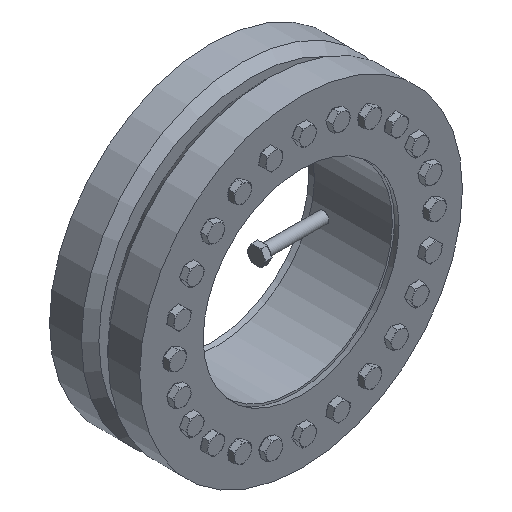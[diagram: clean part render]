
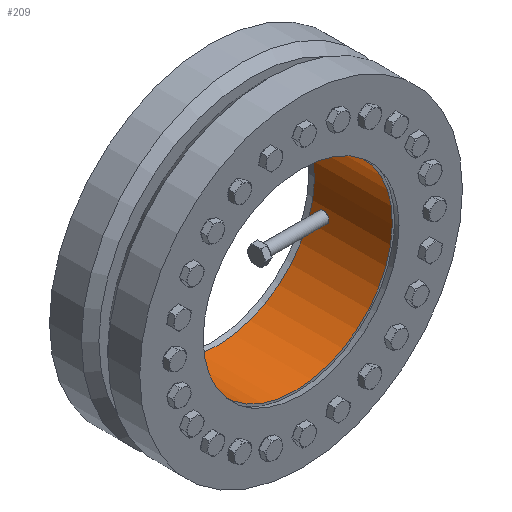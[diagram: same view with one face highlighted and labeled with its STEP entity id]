
A CAD part, isometric view. The second image highlights one B-rep face of the part: STEP entity #209.
In plain terms, the highlighted cylindrical face has radius 175 mm (diameter 350 mm), a partial arc.
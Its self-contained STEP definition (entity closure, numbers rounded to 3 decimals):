
#209 = ADVANCED_FACE( '', ( #581 ), #582, .F. );
#581 = FACE_OUTER_BOUND( '', #1010, .T. );
#582 = CYLINDRICAL_SURFACE( '', #1011, 175. );
#1010 = EDGE_LOOP( '', ( #1623, #1624, #1625, #1626 ) );
#1011 = AXIS2_PLACEMENT_3D( '', #1627, #1628, #1629 );
#1623 = ORIENTED_EDGE( '', *, *, #1984, .T. );
#1624 = ORIENTED_EDGE( '', *, *, #1906, .T. );
#1625 = ORIENTED_EDGE( '', *, *, #1824, .F. );
#1626 = ORIENTED_EDGE( '', *, *, #1914, .F. );
#1627 = CARTESIAN_POINT( '', ( 0., -60., 0. ) );
#1628 = DIRECTION( '', ( 0., 1., 0. ) );
#1629 = DIRECTION( '', ( 0., 0., -1. ) );
#1824 = EDGE_CURVE( '', #2093, #2094, #2095, .T. );
#1906 = EDGE_CURVE( '', #2233, #2094, #2247, .F. );
#1914 = EDGE_CURVE( '', #2258, #2093, #2259, .F. );
#1984 = EDGE_CURVE( '', #2258, #2233, #2367, .T. );
#2093 = VERTEX_POINT( '', #2604 );
#2094 = VERTEX_POINT( '', #2605 );
#2095 = CIRCLE( '', #2606, 175. );
#2233 = VERTEX_POINT( '', #2749 );
#2247 = LINE( '', #2775, #2776 );
#2258 = VERTEX_POINT( '', #2787 );
#2259 = LINE( '', #2788, #2789 );
#2367 = CIRCLE( '', #2914, 175. );
#2604 = CARTESIAN_POINT( '', ( -8.1, 70., 174.812 ) );
#2605 = CARTESIAN_POINT( '', ( 8.1, 70., 174.812 ) );
#2606 = AXIS2_PLACEMENT_3D( '', #3028, #3029, #3030 );
#2749 = CARTESIAN_POINT( '', ( 8.1, -70., 174.812 ) );
#2775 = CARTESIAN_POINT( '', ( 8.1, -60., 174.812 ) );
#2776 = VECTOR( '', #3219, 1000. );
#2787 = CARTESIAN_POINT( '', ( -8.1, -70., 174.812 ) );
#2788 = CARTESIAN_POINT( '', ( -8.1, -60., 174.812 ) );
#2789 = VECTOR( '', #3229, 1000. );
#2914 = AXIS2_PLACEMENT_3D( '', #3340, #3341, #3342 );
#3028 = CARTESIAN_POINT( '', ( 0., 70., 0. ) );
#3029 = DIRECTION( '', ( 0., -1., 0. ) );
#3030 = DIRECTION( '', ( 0., 0., -1. ) );
#3219 = DIRECTION( '', ( 0., -1., 0. ) );
#3229 = DIRECTION( '', ( 0., -1., 0. ) );
#3340 = CARTESIAN_POINT( '', ( 0., -70., 0. ) );
#3341 = DIRECTION( '', ( 0., -1., 0. ) );
#3342 = DIRECTION( '', ( 0., 0., -1. ) );
